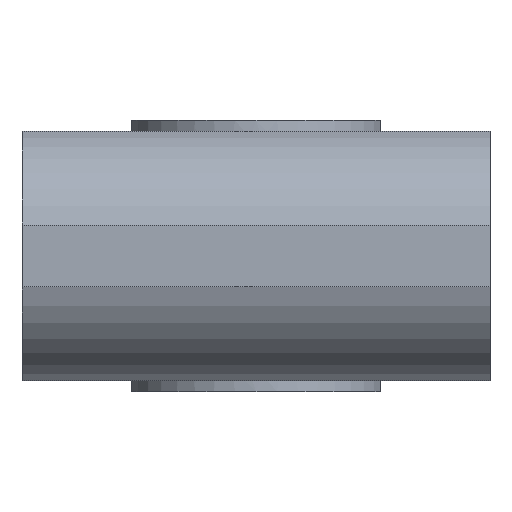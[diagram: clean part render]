
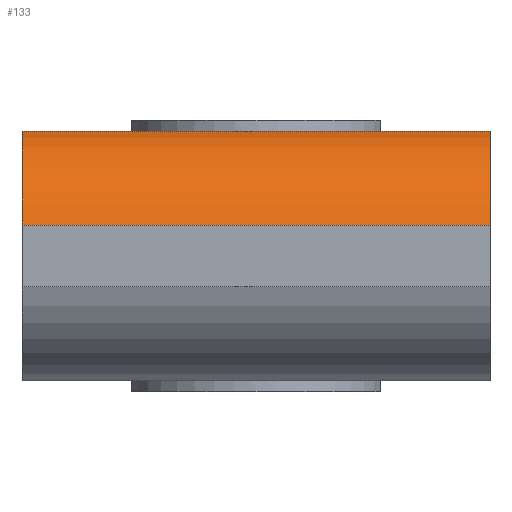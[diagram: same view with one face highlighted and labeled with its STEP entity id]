
A CAD part, front view. The second image highlights one B-rep face of the part: STEP entity #133.
In plain terms, the highlighted cylindrical face has radius 17 mm (diameter 34 mm), a partial arc.
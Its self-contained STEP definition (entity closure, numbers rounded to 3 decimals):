
#66 = VECTOR ( 'NONE', #1084, 1000. ) ;
#69 = CARTESIAN_POINT ( 'NONE',  ( -31., -38.093, 16.5 ) ) ;
#94 = ORIENTED_EDGE ( 'NONE', *, *, #956, .F. ) ;
#133 = ADVANCED_FACE ( 'NONE', ( #603 ), #492, .T. ) ;
#145 = DIRECTION ( 'NONE',  ( 1., 0., 0. ) ) ;
#146 = EDGE_CURVE ( 'NONE', #575, #600, #1157, .T. ) ;
#245 = ORIENTED_EDGE ( 'NONE', *, *, #950, .T. ) ;
#258 = VECTOR ( 'NONE', #801, 1000. ) ;
#263 = CIRCLE ( 'NONE', #947, 17. ) ;
#333 = LINE ( 'NONE', #1192, #66 ) ;
#492 = CYLINDRICAL_SURFACE ( 'NONE', #1004, 17. ) ;
#513 = DIRECTION ( 'NONE',  ( 0., 0., -1. ) ) ;
#575 = VERTEX_POINT ( 'NONE', #770 ) ;
#587 = ORIENTED_EDGE ( 'NONE', *, *, #146, .T. ) ;
#591 = CIRCLE ( 'NONE', #799, 17. ) ;
#600 = VERTEX_POINT ( 'NONE', #69 ) ;
#603 = FACE_OUTER_BOUND ( 'NONE', #1202, .T. ) ;
#681 = EDGE_CURVE ( 'NONE', #1209, #1171, #333, .T. ) ;
#758 = CARTESIAN_POINT ( 'NONE',  ( 31., -50.5, 4.093 ) ) ;
#770 = CARTESIAN_POINT ( 'NONE',  ( 31., -38.093, 16.5 ) ) ;
#792 = DIRECTION ( 'NONE',  ( 1., 0., 0. ) ) ;
#799 = AXIS2_PLACEMENT_3D ( 'NONE', #983, #145, #513 ) ;
#801 = DIRECTION ( 'NONE',  ( -1., 0., 0. ) ) ;
#863 = DIRECTION ( 'NONE',  ( 0., 0., 1. ) ) ;
#870 = CARTESIAN_POINT ( 'NONE',  ( 31., -34., 0. ) ) ;
#907 = CARTESIAN_POINT ( 'NONE',  ( 31., -38.093, 16.5 ) ) ;
#925 = ORIENTED_EDGE ( 'NONE', *, *, #681, .T. ) ;
#947 = AXIS2_PLACEMENT_3D ( 'NONE', #1061, #792, #1177 ) ;
#950 = EDGE_CURVE ( 'NONE', #600, #1209, #591, .T. ) ;
#956 = EDGE_CURVE ( 'NONE', #575, #1171, #263, .T. ) ;
#979 = DIRECTION ( 'NONE',  ( -1., 0., 0. ) ) ;
#983 = CARTESIAN_POINT ( 'NONE',  ( -31., -34., 0. ) ) ;
#1004 = AXIS2_PLACEMENT_3D ( 'NONE', #870, #979, #863 ) ;
#1061 = CARTESIAN_POINT ( 'NONE',  ( 31., -34., 0. ) ) ;
#1084 = DIRECTION ( 'NONE',  ( 1., 0., 0. ) ) ;
#1116 = CARTESIAN_POINT ( 'NONE',  ( -31., -50.5, 4.093 ) ) ;
#1157 = LINE ( 'NONE', #907, #258 ) ;
#1171 = VERTEX_POINT ( 'NONE', #758 ) ;
#1177 = DIRECTION ( 'NONE',  ( 0., 0., -1. ) ) ;
#1192 = CARTESIAN_POINT ( 'NONE',  ( 31., -50.5, 4.093 ) ) ;
#1202 = EDGE_LOOP ( 'NONE', ( #94, #587, #245, #925 ) ) ;
#1209 = VERTEX_POINT ( 'NONE', #1116 ) ;
